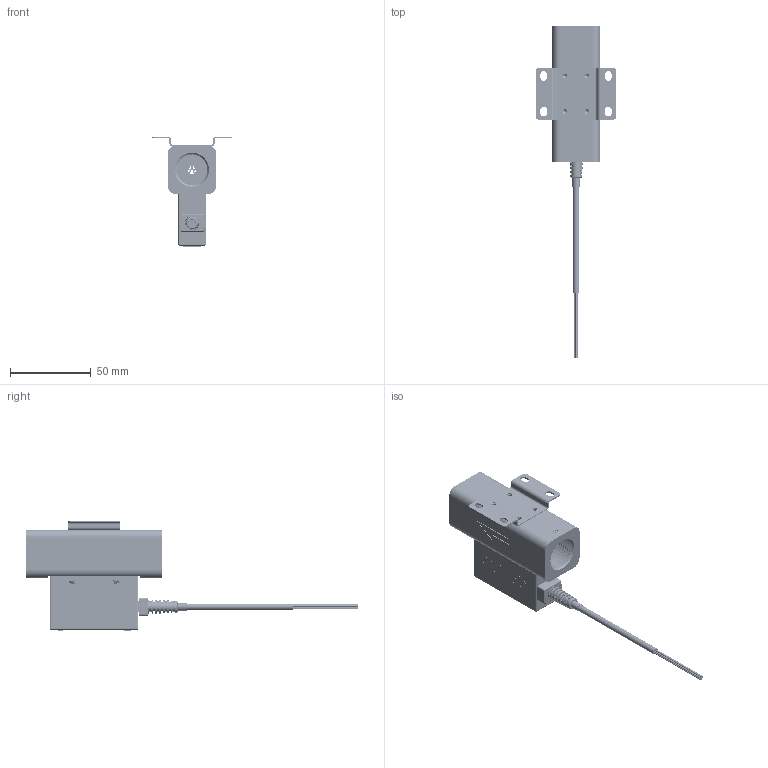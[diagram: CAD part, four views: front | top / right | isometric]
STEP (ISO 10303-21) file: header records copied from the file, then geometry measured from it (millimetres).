
FILE_DESCRIPTION( (''), '2;1');
FILE_NAME( 'QGKE_1000L_1-2in.step', '2025-05-09T16:20:30+08:00', (''), (''), '', '', '');
FILE_SCHEMA (('AUTOMOTIVE_DESIGN { 1 0 10303 214 3 1 1 1 }'));
Products named in the file (1): QGKE 1000L_1-2in
Bounding box: 50 x 205.36 x 68.5 mm (x, y, z)
Volume: 64716.7 mm3; surface area: 46876.6 mm2
Topology: 12 solids, 12 shells, 3349 faces, 9709 edges, 6409 vertices
Faces by surface type: cylinder 2472, plane 712, cone 66, bspline 53, torus 28, extrusion 10, sphere 8
Full cylindrical faces by diameter (mm): 0.5 x2070, 0.8 x2, 1.2 x2, 1.6 x4, 2 x2, 2.5 x10, 3 x10, 5 x3, 8 x2, 15 x2, 18 x5, 19 x18, 20 x2
Entity records: 116471 total; most frequent: CARTESIAN_POINT 24134, DIRECTION 18835, ORIENTED_EDGE 14914, EDGE_LOOP 9755, FACE_BOUND 8671, AXIS2_PLACEMENT_3D 8336, EDGE_CURVE 7457, VERTEX_POINT 6348
